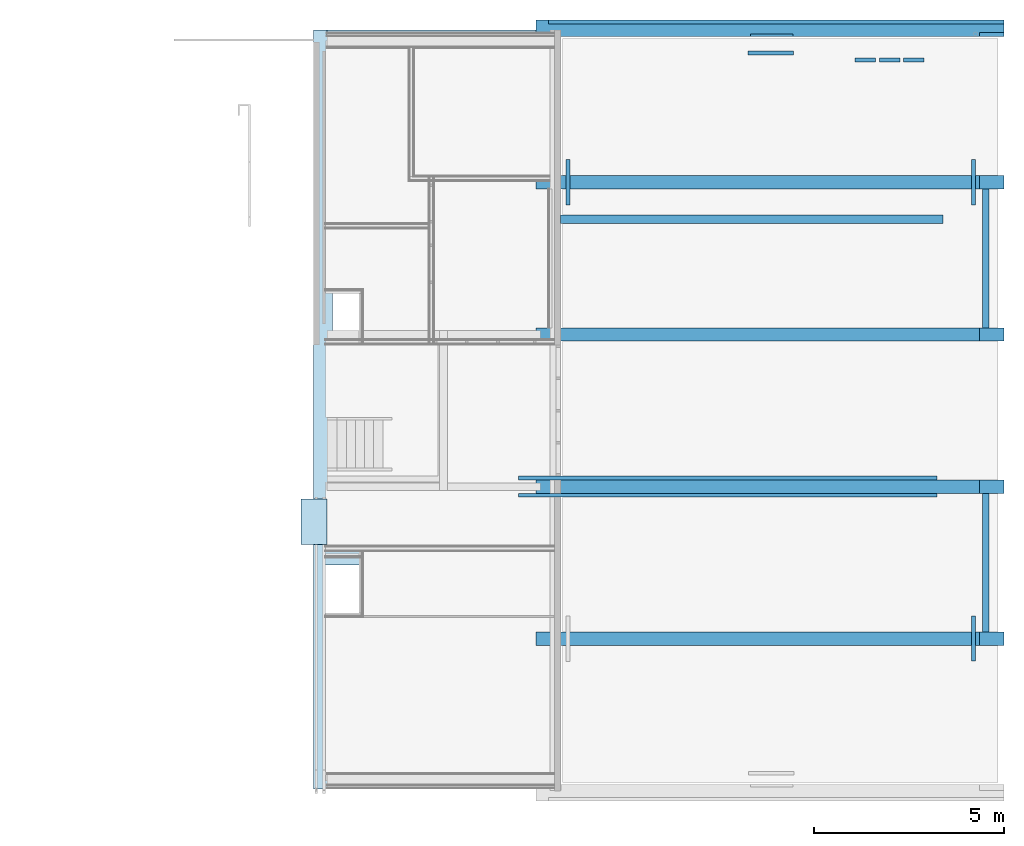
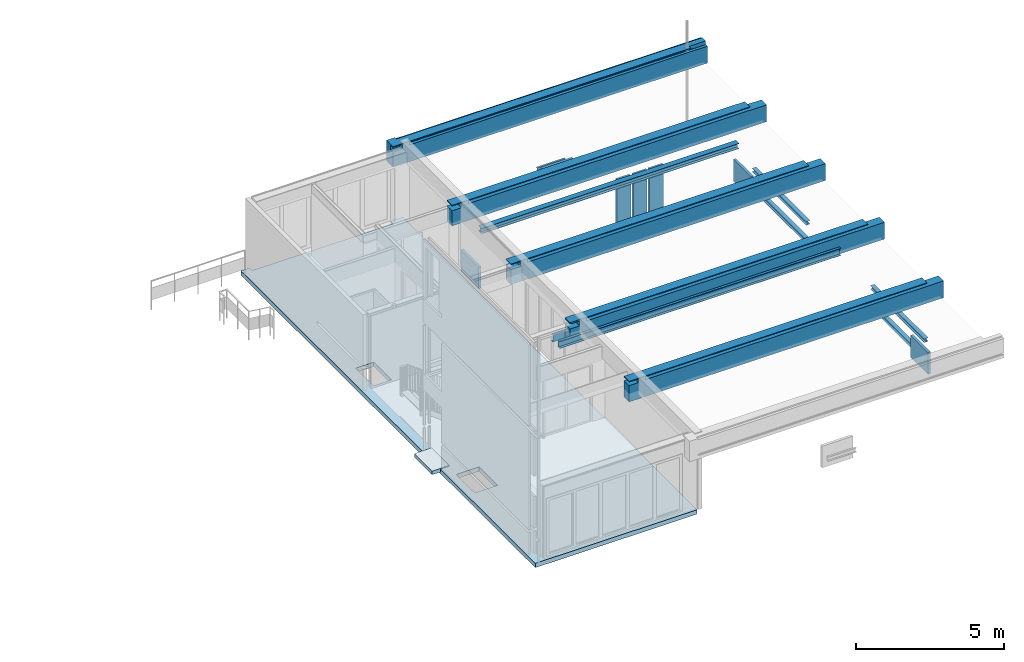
# One storey, part 2 of 13: 18 beams, 2 slabs, 4 openings.
"""IFC2X3 building model written with IfcOpenShell, lengths in millimetres."""

from ifc_helpers import new_model, entity, si_unit, converted_unit, derived_unit, money_unit, direction, frame, origin_with_axes, place, context, subcontext, project, spatial, faceted_brep, material, type_object, element, save


model = new_model("IFC2X3")

# Units and contexts
model_context = context("Model", 3, precision=0.01, world=origin_with_axes(), true_north=direction((0.0, 1.0)))
body_context = subcontext(model_context, "Body", "Model", "MODEL_VIEW")
ifc_project = project(units=[si_unit("LENGTHUNIT", "METRE", prefix="MILLI"), si_unit("AREAUNIT", "SQUARE_METRE"), si_unit("VOLUMEUNIT", "CUBIC_METRE"), converted_unit("PLANEANGLEUNIT", "DEGREE", entity("IfcPlaneAngleMeasure", 0.0174532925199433), si_unit("PLANEANGLEUNIT", "RADIAN"), dimensions=[0, 0, 0, 0, 0, 0, 0]), money_unit("EUR"), converted_unit("TIMEUNIT", "Year", entity("IfcTimeMeasure", 31557600.0), si_unit("TIMEUNIT", "SECOND"), dimensions=[0, 0, 1, 0, 0, 0, 0]), si_unit("MASSUNIT", "GRAM", prefix="KILO"), si_unit("THERMODYNAMICTEMPERATUREUNIT", "DEGREE_CELSIUS"), si_unit("LUMINOUSINTENSITYUNIT", "LUMEN"), si_unit("ENERGYUNIT", "JOULE", prefix="MEGA"), derived_unit("THERMALCONDUCTANCEUNIT", [(si_unit("POWERUNIT", "WATT"), 1), (si_unit("LENGTHUNIT", "METRE"), -1), (si_unit("THERMODYNAMICTEMPERATUREUNIT", "KELVIN"), -1)]), derived_unit("SPECIFICHEATCAPACITYUNIT", [(si_unit("ENERGYUNIT", "JOULE"), 1), (si_unit("MASSUNIT", "GRAM", prefix="KILO"), -1), (si_unit("THERMODYNAMICTEMPERATUREUNIT", "KELVIN"), -1)]), derived_unit("MASSDENSITYUNIT", [(si_unit("MASSUNIT", "GRAM", prefix="KILO"), 1), (si_unit("VOLUMEUNIT", "CUBIC_METRE"), -1)])], contexts=[model_context])

# Site, building, storey
site_placement = place(None, origin_with_axes())
site = spatial("IfcSite", under=ifc_project, at=site_placement, Name="<site naam>", CompositionType="ELEMENT")
building_placement = place(site_placement, origin_with_axes())
building = spatial("IfcBuilding", under=site, at=building_placement, Name="<Naam gebouw>", CompositionType="ELEMENT")
storey_placement = place(building_placement, frame((0.0, 0.0, 3188.0), z_axis=(0.0, 0.0, 1.0), x_axis=(1.0, 0.0, 0.0)))
storey = spatial("IfcBuildingStorey", under=building, at=storey_placement, Name="01 1e tussenverdieping", CompositionType="ELEMENT", Elevation=3188.0)

# Beams
ifc_material_1 = material(Name="beton_gewapend C")
beam_type_1 = type_object("IfcBeamType", Name="beton_gewapend C 350 x 850", PredefinedType="BEAM")
beam_1_placement = place(storey_placement, frame((57675.00000000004, 12000.00000000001, 3157.0), z_axis=(0.0, 0.0, 1.0), x_axis=(0.0, -1.0, 0.0)))
element("IfcBeam", 1, at=beam_1_placement, inside=storey, type_object=beam_type_1, material=ifc_material_1, Name="28_Balk_beton_gewapend", ObjectType="BEAM", context=body_context, shape_type="Brep", body=[
    faceted_brep([(-175.0000000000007, 11649.99999999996, -30.00000000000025), (-175.0000000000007, 649.9999999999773, -30.00000000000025), (-175.0000000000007, 649.9999999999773, -150.0000000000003), (-175.0000000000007, 12299.99999999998, -150.0000000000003), (-175.0000000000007, 12299.99999999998, -850.0000000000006), (-175.0000000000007, 0.0, -850.0000000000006), (-175.0000000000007, 0.0, -230.0000000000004), (-175.0000000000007, 369.9997832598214, -230.0000000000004), (-175.0000000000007, 369.9997832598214, -30.00000000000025), (-175.0000000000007, 0.0, -30.00000000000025), (-175.0000000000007, 0.0, 0.0), (-175.0000000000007, 11649.99999999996, 0.0), (174.9999999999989, 649.9999999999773, -30.00000000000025), (174.9999999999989, 11649.99999999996, -30.00000000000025), (174.9999999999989, 649.9999999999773, -150.0000000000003), (174.9999999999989, 12299.99999999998, -150.0000000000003), (174.9999999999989, 12299.99999999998, -850.0000000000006), (175.0000000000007, 0.0, -850.0000000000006), (175.0000000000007, 0.0, -230.0000000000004), (175.0000000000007, 369.9997832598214, -230.0000000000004), (175.0000000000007, 369.9997832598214, -30.00000000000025), (175.0000000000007, 0.0, -30.00000000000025), (175.0000000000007, 0.0, 0.0), (174.9999999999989, 11649.99999999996, 0.0)], [[[0, 1, 2, 3, 4, 5, 6, 7, 8, 9, 10, 11]], [[12, 1, 0, 13]], [[14, 2, 1, 12]], [[14, 15, 3, 2]], [[4, 3, 15, 16]], [[17, 5, 4, 16]], [[17, 18, 6, 5]], [[19, 7, 6, 18]], [[20, 8, 7, 19]], [[21, 9, 8, 20]], [[10, 9, 21, 22]], [[22, 23, 11, 10]], [[23, 13, 0, 11]], [[14, 12, 13, 23, 22, 21, 20, 19, 18, 17, 16, 15]]]),
])
beam_2_placement = place(storey_placement, frame((57675.00000000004, 16000.00000000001, 3157.0), z_axis=(0.0, 0.0, 1.0), x_axis=(0.0, -1.0, 0.0)))
element("IfcBeam", 2, at=beam_2_placement, inside=storey, type_object=beam_type_1, material=ifc_material_1, Name="28_Balk_beton_gewapend", ObjectType="BEAM", context=body_context, shape_type="Brep", body=[
    faceted_brep([(-175.0000000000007, 11649.99999999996, -30.00000000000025), (-175.0000000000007, 649.9999999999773, -30.00000000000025), (-175.0000000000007, 649.9999999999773, -150.0000000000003), (-175.0000000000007, 12299.99999999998, -150.0000000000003), (-175.0000000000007, 12299.99999999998, -850.0000000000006), (-175.0000000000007, 0.0, -850.0000000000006), (-175.0000000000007, 0.0, -230.0000000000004), (-175.0000000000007, 369.9997832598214, -230.0000000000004), (-175.0000000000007, 369.9997832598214, -30.00000000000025), (-175.0000000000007, 0.0, -30.00000000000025), (-175.0000000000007, 0.0, 0.0), (-175.0000000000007, 11649.99999999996, 0.0), (175.0000000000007, 649.9999999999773, -30.00000000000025), (175.0000000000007, 11649.99999999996, -30.00000000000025), (175.0000000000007, 649.9999999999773, -150.0000000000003), (174.9999999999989, 12299.99999999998, -150.0000000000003), (174.9999999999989, 12299.99999999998, -850.0000000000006), (175.0000000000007, 0.0, -850.0000000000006), (175.0000000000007, 0.0, -230.0000000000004), (175.0000000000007, 369.9997832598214, -230.0000000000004), (175.0000000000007, 369.9997832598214, -30.00000000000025), (175.0000000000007, 0.0, -30.00000000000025), (175.0000000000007, 0.0, 0.0), (174.9999999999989, 11649.99999999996, 0.0)], [[[0, 1, 2, 3, 4, 5, 6, 7, 8, 9, 10, 11]], [[12, 1, 0, 13]], [[14, 2, 1, 12]], [[14, 15, 3, 2]], [[4, 3, 15, 16]], [[17, 5, 4, 16]], [[17, 18, 6, 5]], [[19, 7, 6, 18]], [[20, 8, 7, 19]], [[21, 9, 8, 20]], [[10, 9, 21, 22]], [[22, 23, 11, 10]], [[23, 13, 0, 11]], [[14, 12, 13, 23, 22, 21, 20, 19, 18, 17, 16, 15]]]),
])
beam_3_placement = place(storey_placement, frame((57675.00000000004, 4000.000000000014, 3157.0), z_axis=(0.0, 0.0, 1.0), x_axis=(0.0, -1.0, 0.0)))
element("IfcBeam", 3, at=beam_3_placement, inside=storey, type_object=beam_type_1, material=ifc_material_1, Name="28_Balk_beton_gewapend", ObjectType="BEAM", context=body_context, shape_type="Brep", body=[
    faceted_brep([(-175.0000000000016, 11649.99999999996, -30.00000000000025), (-175.0000000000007, 649.9999999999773, -30.00000000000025), (-175.0000000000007, 649.9999999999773, -150.0000000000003), (-175.0000000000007, 12299.99999999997, -150.0000000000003), (-175.0000000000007, 12299.99999999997, -850.0000000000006), (-174.9999999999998, 0.0, -850.0000000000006), (-175.0000000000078, 0.0, -180.0000000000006), (-175.0000000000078, 369.9997832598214, -180.0000000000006), (-175.0000000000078, 369.9997832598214, -30.00000000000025), (-175.0000000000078, 0.0, -30.00000000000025), (-174.9999999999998, 0.0, 0.0), (-175.0000000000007, 11649.99999999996, 0.0), (175.0000000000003, 649.9999999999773, -30.00000000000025), (174.9999999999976, 11649.99999999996, -30.00000000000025), (175.0000000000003, 649.9999999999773, -150.0000000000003), (174.9999999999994, 12299.99999999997, -150.0000000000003), (174.9999999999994, 12299.99999999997, -850.0000000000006), (174.9999999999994, 0.0, -850.0000000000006), (174.9999999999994, 0.0, -180.0000000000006), (174.9999999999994, 369.9997832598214, -180.0000000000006), (174.9999999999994, 369.9997832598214, -30.00000000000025), (174.9999999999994, 0.0, -30.00000000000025), (174.9999999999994, 0.0, 0.0), (174.9999999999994, 11649.99999999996, 0.0)], [[[0, 1, 2, 3, 4, 5, 6, 7, 8, 9, 10, 11]], [[12, 1, 0, 13]], [[14, 2, 1, 12]], [[14, 15, 3, 2]], [[4, 3, 15, 16]], [[17, 5, 4, 16]], [[17, 18, 6, 5]], [[19, 7, 6, 18]], [[20, 8, 7, 19]], [[21, 9, 8, 20]], [[10, 9, 21, 22]], [[22, 23, 11, 10]], [[23, 13, 0, 11]], [[14, 12, 13, 23, 22, 21, 20, 19, 18, 17, 16, 15]]]),
])
beam_4_placement = place(storey_placement, frame((57675.00000000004, 8000.000000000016, 3157.0), z_axis=(0.0, 0.0, 1.0), x_axis=(0.0, -1.0, 0.0)))
element("IfcBeam", 4, at=beam_4_placement, inside=storey, type_object=beam_type_1, material=ifc_material_1, Name="28_Balk_beton_gewapend", ObjectType="BEAM", context=body_context, shape_type="Brep", body=[
    faceted_brep([(-174.9999999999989, 11649.99999999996, -30.00000000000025), (-174.9999999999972, 649.9999999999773, -30.00000000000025), (-174.9999999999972, 649.9999999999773, -150.0000000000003), (-175.0000000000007, 12299.99999999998, -150.0000000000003), (-175.0000000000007, 12299.99999999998, -850.0000000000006), (-175.0000000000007, 0.0, -850.0000000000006), (-175.0000000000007, 0.0, -260.0000000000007), (-175.0000000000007, 369.9998807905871, -260.0000000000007), (-175.0000000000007, 369.9998807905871, -60.0000000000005), (-175.0000000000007, 0.0, -60.0000000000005), (-175.0000000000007, 0.0, 0.0), (-175.0000000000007, 11649.99999999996, 0.0), (174.9999999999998, 649.9999999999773, -30.00000000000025), (174.999999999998, 11649.99999999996, -30.00000000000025), (174.9999999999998, 649.9999999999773, -150.0000000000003), (174.9999999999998, 12299.99999999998, -150.0000000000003), (174.9999999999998, 12299.99999999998, -850.0000000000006), (175.0000000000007, 0.0, -850.0000000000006), (175.0000000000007, 0.0, -260.0000000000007), (175.0000000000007, 369.9998807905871, -260.0000000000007), (175.0000000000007, 369.9998807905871, -60.0000000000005), (175.0000000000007, 0.0, -60.0000000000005), (175.0000000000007, 0.0, 0.0), (174.9999999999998, 11649.99999999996, 0.0)], [[[0, 1, 2, 3, 4, 5, 6, 7, 8, 9, 10, 11]], [[12, 1, 0, 13]], [[14, 2, 1, 12]], [[14, 15, 3, 2]], [[4, 3, 15, 16]], [[17, 5, 4, 16]], [[17, 18, 6, 5]], [[19, 7, 6, 18]], [[20, 8, 7, 19]], [[21, 9, 8, 20]], [[10, 9, 21, 22]], [[22, 23, 11, 10]], [[23, 13, 0, 11]], [[14, 12, 13, 23, 22, 21, 20, 19, 18, 17, 16, 15]]]),
])
beam_type_2 = type_object("IfcBeamType", Name="beton_gewapend C 440 x 850", PredefinedType="BEAM")
beam_5_placement = place(storey_placement, frame((57675.00000000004, 19824.99999999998, 3157.0), z_axis=(0.0, 0.0, 1.0), x_axis=(0.0, -1.0, 0.0)))
element("IfcBeam", 5, at=beam_5_placement, inside=storey, type_object=beam_type_2, material=ifc_material_1, Name="28_Balk_beton_gewapend", ObjectType="BEAM", context=body_context, shape_type="Brep", body=[
    faceted_brep([(-115.000000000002, 11649.99999999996, 0.0), (-115.000000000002, 11649.99999999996, -30.00000000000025), (-115.000000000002, 649.9999999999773, -30.00000000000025), (-115.000000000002, 649.9999999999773, -150.0000000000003), (-115.000000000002, 12299.99999999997, -150.0000000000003), (-115.000000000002, 12299.99999999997, 0.0), (0.0, 11649.99999999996, 0.0), (0.0, 11649.99999999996, -30.00000000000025), (0.0, 649.9999999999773, -30.00000000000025), (0.0, 649.9999999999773, -150.0000000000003), (0.0, 12299.99999999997, -150.0000000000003), (0.0, 12299.99999999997, -850.0000000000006), (-335.0000000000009, 12299.99999999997, -850.0000000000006), (-335.0000000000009, 12299.99999999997, -659.9999960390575), (-380.0000010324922, 12299.99999999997, -659.9999960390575), (-380.0000010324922, 12299.99999999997, -610.0000280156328), (-410.0000033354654, 12299.99999999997, -610.0000280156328), (-410.0000033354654, 12299.99999999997, -640.0000385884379), (-440.0000056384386, 12299.99999999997, -640.0000385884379), (-440.0000056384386, 12299.99999999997, -50.00000012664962), (-339.9999941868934, 12299.99999999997, -50.00000012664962), (-339.9999941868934, 12299.99999999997, 0.0), (0.0, 0.0, 0.0), (-339.9999941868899, 324.9999999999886, 0.0), (-440.0000000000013, 324.9999999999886, 0.0), (-440.0000000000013, 0.0, 0.0), (0.0, 0.0, -30.00000000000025), (0.0, 369.9997832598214, -30.00000000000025), (0.0, 369.9997832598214, -230.0000000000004), (0.0, 0.0, -230.0000000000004), (0.0, 0.0, -850.0000000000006), (-400.0000000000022, 12299.99999999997, -850.0000000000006), (-400.0000000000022, 325.0000000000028, -850.0000000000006), (-335.0000000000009, 325.0000000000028, -850.0000000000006), (-440.0000000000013, 0.0, -850.0000000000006), (-440.0000000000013, 12299.99999999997, -850.0000000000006), (-335.0000000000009, 325.0000000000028, -659.9999960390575), (-380.0000010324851, 325.0000000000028, -659.9999960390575), (-380.0000010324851, 324.9999999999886, -610.0000280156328), (-410.0000033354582, 324.9999999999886, -610.0000280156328), (-410.0000033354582, 324.9999999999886, -640.0000385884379), (-440.000005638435, 324.9999999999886, -640.0000385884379), (-440.0000056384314, 324.9999999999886, -50.00000012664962), (-440.000005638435, 324.9999999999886, -680.000014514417), (-440.000005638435, 324.9999999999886, -709.9999375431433), (-440.0000056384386, 12299.99999999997, -709.9999375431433), (-339.9999941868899, 324.9999999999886, -50.00000012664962), (-175.0000000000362, 0.0, -230.0000000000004), (-175.0000000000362, 0.0, -30.00000000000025), (-175.0000000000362, 369.9997832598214, -30.00000000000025), (-175.0000000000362, 369.9997832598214, -230.0000000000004), (-400.0000000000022, 325.0000000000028, -709.9999375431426), (-400.0000000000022, 12299.99999999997, -709.9999375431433)], [[[0, 1, 2, 3, 4, 5]], [[6, 7, 1, 0]], [[2, 1, 7, 8]], [[2, 8, 9, 3]], [[9, 10, 4, 3]], [[5, 4, 10, 11, 12, 13, 14, 15, 16, 17, 18, 19, 20, 21]], [[22, 6, 0, 5, 21, 23, 24, 25]], [[9, 8, 7, 6, 22, 26, 27, 28, 29, 30, 11, 10]], [[31, 32, 33, 12, 11, 30, 34, 35]], [[33, 36, 13, 12]], [[13, 36, 37, 14]], [[38, 15, 14, 37]], [[15, 38, 39, 16]], [[16, 39, 40, 17]], [[18, 17, 40, 41]], [[35, 34, 25, 24, 42, 19, 18, 41, 43, 44, 45]], [[19, 42, 46, 20]], [[21, 20, 46, 23]], [[24, 23, 46, 42]], [[47, 48, 26, 22, 25, 34, 30, 29]], [[49, 27, 26, 48]], [[50, 28, 27, 49]], [[47, 29, 28, 50]], [[51, 32, 31, 52]], [[33, 32, 51, 44, 43, 41, 40, 39, 38, 37, 36]], [[35, 45, 52, 31]], [[45, 44, 51, 52]], [[49, 48, 47, 50]]]),
])
ifc_material_2 = material(Name="staal")
beam_type_3 = type_object("IfcBeamType", Name="Profiel UPN algemeen 100 x 300", PredefinedType="BEAM")
beam_6_placement = place(storey_placement, frame((57211.24851208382, 8175.000000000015, 2607.000201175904), z_axis=(0.0, 0.0, 1.0), x_axis=(0.0, -1.0, 0.0)))
element("IfcBeam", 6, at=beam_6_placement, inside=storey, type_object=beam_type_3, material=ifc_material_2, Name="28_Balk_Profiel", ObjectType="BEAM", context=body_context, shape_type="Brep", body=[
    faceted_brep([(-100.0000000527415, 0.0, -16.00000000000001), (-100.0000000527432, 10999.99999999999, -16.00000000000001), (-10.00000000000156, 10999.99999999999, -16.00000000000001), (-9.999999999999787, 0.0, -16.00000000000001), (-100.0000000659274, 0.0, 0.0), (-100.0000000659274, 10999.99999999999, 0.0), (0.0, 10999.99999999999, 0.0), (0.0, 10999.99999999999, -300.0002012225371), (-100.0000000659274, 10999.99999999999, -300.0002012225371), (-100.0000000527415, 10999.99999999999, -284.0002011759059), (-9.999999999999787, 10999.99999999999, -284.0002011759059), (-9.999999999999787, 0.0, -284.0002011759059), (-100.0000000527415, 0.0, -284.0002011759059), (-100.0000000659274, 0.0, -300.0002012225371), (0.0, 0.0, -300.0002012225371), (0.0, 0.0, 0.0)], [[[0, 1, 2, 3]], [[4, 5, 1, 0]], [[2, 1, 5, 6, 7, 8, 9, 10]], [[3, 2, 10, 11]], [[4, 0, 3, 11, 12, 13, 14, 15]], [[15, 6, 5, 4]], [[14, 7, 6, 15]], [[13, 8, 7, 14]], [[12, 9, 8, 13]], [[11, 10, 9, 12]]]),
])
beam_7_placement = place(storey_placement, frame((57211.24851208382, 7825.000000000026, 2607.000201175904), z_axis=(0.0, 0.0, 1.0), x_axis=(0.0, -1.0, 0.0)))
element("IfcBeam", 7, at=beam_7_placement, inside=storey, type_object=beam_type_3, material=ifc_material_2, Name="28_Balk_Profiel", ObjectType="BEAM", context=body_context, shape_type="Brep", body=[
    faceted_brep([(100.0000000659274, 0.0, 0.0), (100.0000000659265, 10999.99999999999, 0.0), (0.0, 10999.99999999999, 0.0), (0.0, 0.0, 0.0), (100.0000000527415, 0.0, -16.00000000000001), (100.0000000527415, 10999.99999999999, -16.00000000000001), (9.999999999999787, 10999.99999999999, -16.00000000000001), (9.999999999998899, 10999.99999999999, -284.0002011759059), (100.0000000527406, 10999.99999999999, -284.0002011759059), (100.0000000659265, 10999.99999999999, -300.0002012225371), (0.0, 10999.99999999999, -300.0002012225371), (0.0, 0.0, -300.0002012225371), (100.0000000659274, 0.0, -300.0002012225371), (100.0000000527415, 0.0, -284.0002011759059), (9.999999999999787, 0.0, -284.0002011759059), (10.00000000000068, 0.0, -16.00000000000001)], [[[0, 1, 2, 3]], [[4, 5, 1, 0]], [[2, 1, 5, 6, 7, 8, 9, 10]], [[3, 2, 10, 11]], [[4, 0, 3, 11, 12, 13, 14, 15]], [[15, 6, 5, 4]], [[14, 7, 6, 15]], [[13, 8, 7, 14]], [[12, 9, 8, 13]], [[11, 10, 9, 12]]]),
])
ifc_material_3 = material(Name="ALG - ALGEMEEN")
beam_type_4 = type_object("IfcBeamType", Name="ALG - ALGEMEEN 100 x 900", PredefinedType="BEAM")
beam_8_placement = place(storey_placement, frame((69225.00005365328, 3415.01755167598, 586.9997884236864), z_axis=(0.0, 0.0, 1.0), x_axis=(1.0, 0.0, 0.0)))
element("IfcBeam", 8, at=beam_8_placement, inside=storey, type_object=beam_type_4, material=ifc_material_3, Name="77_Balk_ALG", ObjectType="BEAM", context=body_context, shape_type="Brep", body=[
    faceted_brep([(0.0, 0.0, 0.0), (0.0, 1184.999999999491, 0.0), (-100.0000020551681, 1184.999999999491, 0.0), (-100.0000020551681, 0.0, 0.0), (0.0, 0.0, -899.9995791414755), (0.0, 1184.999999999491, -899.9995791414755), (-100.0000020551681, 1184.999999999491, -899.9995791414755), (-100.0000020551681, 0.0, -899.9995791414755)], [[[0, 1, 2, 3]], [[4, 5, 1, 0]], [[2, 1, 5, 6]], [[3, 2, 6, 7]], [[4, 0, 3, 7]], [[7, 6, 5, 4]]]),
])
beam_9_placement = place(storey_placement, frame((69225.00005365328, 15399.99999999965, 586.9997884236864), z_axis=(0.0, 0.0, 1.0), x_axis=(1.0, 0.0, 0.0)))
element("IfcBeam", 9, at=beam_9_placement, inside=storey, type_object=beam_type_4, material=ifc_material_3, Name="77_Balk_ALG", ObjectType="BEAM", context=body_context, shape_type="Brep", body=[
    faceted_brep([(0.0, 0.0, 0.0), (0.0, 1200.000000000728, 0.0), (-100.0000020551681, 1200.000000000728, 0.0), (-100.0000020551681, 0.0, 0.0), (0.0, 0.0, -899.9995791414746), (0.0, 1200.000000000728, -899.9995791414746), (-100.0000020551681, 1200.000000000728, -899.9995791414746), (-100.0000020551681, 0.0, -899.9995791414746)], [[[0, 1, 2, 3]], [[4, 5, 1, 0]], [[2, 1, 5, 6]], [[3, 2, 6, 7]], [[4, 0, 3, 7]], [[7, 6, 5, 4]]]),
])
beam_10_placement = place(storey_placement, frame((58467.43408431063, 16599.98244832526, 586.9997884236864), z_axis=(0.0, 0.0, 1.0), x_axis=(-1.0, 0.0, 0.0)))
element("IfcBeam", 10, at=beam_10_placement, inside=storey, type_object=beam_type_4, material=ifc_material_3, Name="77_Balk_ALG", ObjectType="BEAM", context=body_context, shape_type="Brep", body=[
    faceted_brep([(0.0, 0.0, 0.0), (0.0, 1200.000000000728, 0.0), (-100.0000020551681, 1200.000000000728, 0.0), (-100.0000020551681, 0.0, 0.0), (0.0, 0.0, -899.9995791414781), (0.0, 1200.000000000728, -899.9995791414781), (-100.0000020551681, 1200.000000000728, -899.9995791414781), (-100.0000020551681, 0.0, -899.9995791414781)], [[[0, 1, 2, 3]], [[4, 5, 1, 0]], [[2, 1, 5, 6]], [[3, 2, 6, 7]], [[4, 0, 3, 7]], [[7, 6, 5, 4]]]),
])
beam_11_placement = place(storey_placement, frame((63246.21701635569, 19447.41998285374, 586.9997884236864), z_axis=(0.0, 0.0, 1.0), x_axis=(0.0, -1.0, 0.0)))
element("IfcBeam", 11, at=beam_11_placement, inside=storey, type_object=beam_type_4, material=ifc_material_3, Name="77_Balk_ALG", ObjectType="BEAM", context=body_context, shape_type="Brep", body=[
    faceted_brep([(0.0, 0.0, -899.9995791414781), (0.0, 1200.000000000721, -899.9995791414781), (100.0000020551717, 1200.000000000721, -899.9995791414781), (100.0000020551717, 0.0, -899.9995791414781), (0.0, 0.0, 0.0), (0.0, 1200.000000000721, 0.0), (100.0000020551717, 1200.000000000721, 0.0), (100.0000020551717, 0.0, 0.0)], [[[0, 1, 2, 3]], [[4, 5, 1, 0]], [[2, 1, 5, 6]], [[3, 2, 6, 7]], [[4, 0, 3, 7]], [[7, 6, 5, 4]]]),
])
ifc_material_4 = material(Name="staal C")
beam_type_5 = type_object("IfcBeamType", Name="Profiel H algemeen 160 x 152", PredefinedType="BEAM")
for number, where, z_axis, x_axis, name in (
    (12, (69495.00020540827, 15824.99999999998, 510.9994328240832), (0.0, 0.0, 1.0), (-1.0, 0.0, 0.0), "28_Balk_Profiel"),
    (13, (69495.00020540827, 7824.999999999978, 510.9994328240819), (0.0, 0.0, 1.0), (-1.0, 0.0, 0.0), "28_Balk_Profiel"),
    (14, (69495.00020540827, 15824.99999999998, -236.9994328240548), (0.0, 0.0, 1.0), (-1.0, 0.0, 0.0), "28_Balk_Profiel"),
    (15, (69495.00020540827, 7824.999999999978, -236.9994328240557), (0.0, 0.0, 1.0), (-1.0, 0.0, 0.0), "28_Balk_Profiel"),
):
    element("IfcBeam", number, at=place(storey_placement, frame(where, z_axis=z_axis, x_axis=x_axis)), inside=storey, type_object=beam_type_5, material=ifc_material_4, Name=name, ObjectType="BEAM", context=body_context, shape_type="Brep", body=[
        faceted_brep([(-80.00007858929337, 0.0, -76.00042671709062), (-80.00007858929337, 3649.999999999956, -76.00042671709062), (80.00007858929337, 3649.999999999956, -76.00042671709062), (80.00007858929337, 0.0, -76.00042671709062), (-80.00006287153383, 0.0, -66.99970523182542), (-80.00006287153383, 3649.999999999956, -66.99970523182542), (-3.000000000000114, 3649.999999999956, -66.99970523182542), (-3.000000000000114, 3649.999999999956, 66.99970523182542), (-80.00006287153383, 3649.999999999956, 66.99970523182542), (-80.00007858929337, 3649.999999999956, 76.00042671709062), (80.00007858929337, 3649.999999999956, 76.00042671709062), (80.00006287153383, 3649.999999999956, 66.99970523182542), (3.000000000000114, 3649.999999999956, 66.99970523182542), (3.000000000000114, 3649.999999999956, -66.99970523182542), (80.00006287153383, 3649.999999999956, -66.99970523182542), (80.00006287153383, 0.0, -66.99970523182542), (3.000000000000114, 0.0, -66.99970523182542), (3.000000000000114, 0.0, 66.99970523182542), (80.00006287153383, 0.0, 66.99970523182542), (80.00007858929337, 0.0, 76.00042671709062), (-80.00007858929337, 0.0, 76.00042671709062), (-80.00006287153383, 0.0, 66.99970523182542), (-3.000000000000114, 0.0, 66.99970523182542), (-3.000000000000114, 0.0, -66.99970523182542)], [[[0, 1, 2, 3]], [[4, 5, 1, 0]], [[2, 1, 5, 6, 7, 8, 9, 10, 11, 12, 13, 14]], [[3, 2, 14, 15]], [[4, 0, 3, 15, 16, 17, 18, 19, 20, 21, 22, 23]], [[23, 6, 5, 4]], [[22, 7, 6, 23]], [[21, 8, 7, 22]], [[20, 9, 8, 21]], [[19, 10, 9, 20]], [[18, 11, 10, 19]], [[17, 12, 11, 18]], [[16, 13, 12, 17]], [[15, 14, 13, 16]]]),
    ])
beam_type_6 = type_object("IfcBeamType", Name="ALG - ALGEMEEN 100 x 2438", PredefinedType="BEAM")
beam_12_placement = place(storey_placement, frame((66056.21701635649, 19214.99223072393, -750.4999999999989), z_axis=(0.0, 0.0, 1.0), x_axis=(0.0, -1.0, 0.0)))
element("IfcBeam", 16, at=beam_12_placement, inside=storey, type_object=beam_type_6, material=ifc_material_3, Name="77_Balk_ALG", ObjectType="BEAM", context=body_context, shape_type="Brep", body=[
    faceted_brep([(50.00000102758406, 0.0, 0.0), (50.00000102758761, 539.9999736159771, 0.0), (-50.00000102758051, 539.9999736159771, 0.0), (-50.00000102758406, 0.0, 0.0), (50.00000102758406, 0.0, -2434.500000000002), (50.00000102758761, 539.9999736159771, -2434.500000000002), (-50.00000102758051, 539.9999736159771, -2434.500000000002), (-50.00000102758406, 0.0, -2434.500000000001)], [[[0, 1, 2, 3]], [[4, 5, 1, 0]], [[5, 6, 2, 1]], [[3, 2, 6, 7]], [[0, 3, 7, 4]], [[7, 6, 5, 4]]]),
    faceted_brep([(50.00000102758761, 639.9999999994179, 0.0), (50.00000102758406, 1179.999973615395, 0.0), (-50.00000102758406, 1179.999973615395, 0.0), (-50.00000102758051, 639.9999999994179, 0.0), (50.00000102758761, 639.9999999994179, -2434.500000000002), (50.00000102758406, 1179.999973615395, -2434.500000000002), (-50.00000102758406, 1179.999973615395, -2434.500000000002), (-50.00000102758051, 639.9999999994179, -2434.500000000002)], [[[0, 1, 2, 3]], [[4, 5, 1, 0]], [[5, 6, 2, 1]], [[3, 2, 6, 7]], [[4, 0, 3, 7]], [[7, 6, 5, 4]]]),
    faceted_brep([(-50.00000102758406, 1819.999973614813, -2434.500000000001), (-50.00000102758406, 1279.999999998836, -2434.500000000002), (-50.00000102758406, 1279.999999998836, 0.0), (-50.00000102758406, 1819.999973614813, 0.0), (50.00000102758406, 1819.999973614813, -2434.500000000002), (50.00000102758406, 1279.999999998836, -2434.500000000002), (50.00000102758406, 1279.999999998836, 0.0), (50.00000102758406, 1819.999973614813, 0.0)], [[[0, 1, 2, 3]], [[4, 5, 1, 0]], [[5, 6, 2, 1]], [[3, 2, 6, 7]], [[3, 7, 4, 0]], [[7, 6, 5, 4]]]),
])
beam_type_7 = type_object("IfcBeamType", Name="Profiel UPN algemeen 70 x 180", PredefinedType="BEAM")
beam_13_placement = place(storey_placement, frame((63313.25000000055, 19829.99963413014, 299.0000070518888), z_axis=(0.0, 0.0, 1.0), x_axis=(0.0, -1.0, 0.0)))
element("IfcBeam", 17, at=beam_13_placement, inside=storey, type_object=beam_type_7, material=ifc_material_2, Name="28_Balk_Profiel", ObjectType="BEAM", context=body_context, shape_type="Brep", body=[
    faceted_brep([(-7.999999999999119, 0.0, -11.00000000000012), (-70.00032444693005, 0.0, -11.00000000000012), (-70.00032444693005, 1113.499999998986, -11.00000000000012), (-7.999999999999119, 1113.499999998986, -11.00000000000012), (0.0, 0.0, 0.0), (-70.00040555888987, 0.0, 0.0), (-7.999999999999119, 0.0, -169.0000143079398), (-70.00032444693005, 0.0, -169.0000143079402), (-70.00040555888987, 0.0, -180.0000145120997), (0.0, 0.0, -180.0000145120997), (-70.00040555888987, 1113.499999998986, 0.0), (-7.999999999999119, 1113.499999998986, -169.0000143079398), (0.0, 1113.499999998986, 0.0), (0.0, 1113.499999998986, -180.0000145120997), (-70.00040555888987, 1113.499999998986, -180.0000145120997), (-70.00032444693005, 1113.499999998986, -169.0000143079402)], [[[0, 1, 2, 3]], [[4, 5, 1, 0, 6, 7, 8, 9]], [[1, 5, 10, 2]], [[11, 3, 2, 10, 12, 13, 14, 15]], [[6, 0, 3, 11]], [[5, 4, 12, 10]], [[7, 6, 11, 15]], [[8, 7, 15, 14]], [[9, 8, 14, 13]], [[4, 9, 13, 12]]]),
])
beam_type_8 = type_object("IfcBeamType", Name="HEB220 220 x 220", PredefinedType="BEAM")
beam_14_placement = place(storey_placement, frame((58317.78284470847, 15024.75000000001, 2411.499999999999), z_axis=(0.0, 0.0, 1.0), x_axis=(0.0, -1.0, 0.0)))
element("IfcBeam", 18, at=beam_14_placement, inside=storey, type_object=beam_type_8, material=ifc_material_4, Name="28_Balk_HEB220", ObjectType="BEAM", context=body_context, shape_type="Brep", body=[
    faceted_brep([(-109.9999999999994, 0.0, 115.4999999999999), (-110.0000000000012, 10057.26566737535, 115.4999999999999), (-110.0000000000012, 10057.26566737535, 99.49999999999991), (-109.9999999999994, 0.0, 99.49999999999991), (109.9999999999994, 0.0, 115.4999999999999), (109.9999999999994, 10057.26566737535, 115.4999999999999), (109.9999999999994, 10057.26566737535, 99.49999999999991), (4.749999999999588, 10057.26566737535, 99.49999999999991), (4.749999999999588, 10057.26566737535, -88.4999999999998), (109.9999999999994, 10057.26566737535, -88.4999999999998), (109.9999999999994, 10057.26566737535, -104.4999999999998), (-110.0000000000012, 10057.26566737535, -104.4999999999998), (-110.0000000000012, 10057.26566737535, -88.4999999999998), (-4.750000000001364, 10057.26566737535, -88.4999999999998), (-4.750000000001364, 10057.26566737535, 99.49999999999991), (-4.749999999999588, 0.0, 99.49999999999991), (-4.749999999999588, 0.0, -88.4999999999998), (-109.9999999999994, 0.0, -88.4999999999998), (-109.9999999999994, 0.0, -104.4999999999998), (109.9999999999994, 0.0, -104.4999999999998), (109.9999999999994, 0.0, -88.4999999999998), (4.749999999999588, 0.0, -88.4999999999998), (4.749999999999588, 0.0, 99.49999999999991), (109.9999999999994, 0.0, 99.49999999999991)], [[[0, 1, 2, 3]], [[4, 5, 1, 0]], [[2, 1, 5, 6, 7, 8, 9, 10, 11, 12, 13, 14]], [[3, 2, 14, 15]], [[4, 0, 3, 15, 16, 17, 18, 19, 20, 21, 22, 23]], [[23, 6, 5, 4]], [[22, 7, 6, 23]], [[21, 8, 7, 22]], [[20, 9, 8, 21]], [[19, 10, 9, 20]], [[18, 11, 10, 19]], [[17, 12, 11, 18]], [[16, 13, 12, 17]], [[15, 14, 13, 16]]]),
])

# Slab
ifc_material_5 = material(Name="beton_gewapend_vloer C")
slab_type_1 = type_object("IfcSlabType", Name="beton_gewapend_vloer C  150", PredefinedType="NOTDEFINED")
slab_1_placement = place(storey_placement, frame((51501.00000000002, 6475.000000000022, 0.0), z_axis=(0.0, 0.0, 1.0), x_axis=(1.0, 0.0, 0.0)))
element("IfcSlab", 19, at=slab_1_placement, inside=storey, type_object=slab_type_1, material=ifc_material_5, Name="23_Vloer_beton_gewapend_vloer", PredefinedType="NOTDEFINED", context=body_context, shape_type="Brep", body=[
    faceted_brep([(0.0, 0.0, 0.0), (0.0, 0.0, -149.9999999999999), (673.4000000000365, 0.0, -149.9999999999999), (673.4000000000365, 0.0, 0.0), (0.0, 1199.999999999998, 0.0), (0.0, 1199.999999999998, -149.9999999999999), (673.4000000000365, 1199.999999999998, -149.9999999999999), (673.4000000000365, 1199.999999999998, 0.0)], [[[0, 1, 2, 3]], [[4, 5, 1, 0]], [[2, 1, 5, 6]], [[3, 2, 6, 7]], [[4, 0, 3, 7]], [[7, 6, 5, 4]]]),
])

# Slab, openings
slab_type_2 = type_object("IfcSlabType", Name="beton_gewapend_vloer C  180", PredefinedType="NOTDEFINED")
slab_2_placement = place(storey_placement, frame((51825.00000000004, 50.04536538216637, -29.9999999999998), z_axis=(0.0, 0.0, 1.0), x_axis=(1.0, 0.0, 0.0)))
slab_2 = element("IfcSlab", 20, at=slab_2_placement, inside=storey, type_object=slab_type_2, material=ifc_material_5, Name="23_Vloer_beton_gewapend_vloer", PredefinedType="NOTDEFINED", context=body_context, shape_type="Brep", body=[
    faceted_brep([(0.0, 0.0, 0.0), (0.0, 0.0, -180.0000000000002), (6332.782844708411, 0.0, -180.0000000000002), (6332.782844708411, 0.0, 0.0), (0.0, 19949.95463461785, 0.0), (0.0, 19949.95463461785, -180.0000000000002), (6332.782844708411, 19949.95463461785, -180.0000000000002), (6332.782844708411, 19949.95463461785, 0.0)], [[[0, 1, 2, 3]], [[4, 5, 1, 0]], [[2, 1, 5, 6]], [[3, 2, 6, 7]], [[4, 0, 3, 7]], [[7, 6, 5, 4]]]),
])
opening_1_placement = place(slab_2_placement, frame((-51825.00000000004, -50.04536538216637, -3158.0), z_axis=(0.0, 0.0, 1.0), x_axis=(1.0, 0.0, 0.0)))
element("IfcOpeningElement", 21, at=opening_1_placement, cuts=slab_2, Name="23_Opening_", context=body_context, shape_type="Brep", body=[
    faceted_brep([(52325.00000000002, 11875.00000000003, 3338.000000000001), (52325.00000000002, 13075.00000000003, 3338.000000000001), (52325.00000000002, 13075.00000000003, 2798.0), (52325.00000000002, 11875.00000000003, 2798.0), (53025.00000000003, 11875.00000000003, 3338.000000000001), (53025.00000000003, 13075.00000000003, 3338.000000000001), (53025.00000000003, 13075.00000000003, 2798.0), (53025.00000000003, 11875.00000000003, 2798.0)], [[[0, 1, 2, 3]], [[0, 4, 5, 1]], [[1, 5, 6, 2]], [[3, 2, 6, 7]], [[4, 0, 3, 7]], [[5, 4, 7, 6]]]),
])
opening_2_placement = place(slab_2_placement, frame((-51825.00000000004, -50.04536538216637, -3158.0), z_axis=(0.0, 0.0, 1.0), x_axis=(1.0, 0.0, 0.0)))
element("IfcOpeningElement", 22, at=opening_2_placement, cuts=slab_2, Name="23_Opening_", context=body_context, shape_type="Brep", body=[
    faceted_brep([(52175.00007309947, 20000.00000000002, 3158.0), (52175.00007309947, 20290.62140104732, 3158.0), (52175.00007309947, 20290.62140104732, 3008.0), (52175.00007309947, 20000.00000000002, 3008.0), (57675.00000000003, 20000.00000000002, 3158.0), (57675.00000000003, 20290.62140104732, 3158.0), (57675.00000000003, 20290.62140104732, 3008.0), (57675.00000000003, 20000.00000000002, 3008.0)], [[[0, 1, 2, 3]], [[0, 4, 5, 1]], [[1, 5, 6, 2]], [[3, 2, 6, 7]], [[4, 0, 3, 7]], [[5, 4, 7, 6]]]),
])
opening_3_placement = place(slab_2_placement, frame((-51825.00000000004, -50.04536538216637, -3158.0), z_axis=(0.0, 0.0, 1.0), x_axis=(1.0, 0.0, 0.0)))
element("IfcOpeningElement", 23, at=opening_3_placement, cuts=slab_2, Name="23_Opening_", context=body_context, shape_type="Brep", body=[
    faceted_brep([(52135.00000000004, 4685.000000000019, 3158.0), (52135.00000000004, 5935.000000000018, 3158.0), (52135.00000000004, 5935.000000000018, 2158.0), (52135.00000000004, 4685.000000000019, 2158.0), (53025.00000000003, 4685.000000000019, 3158.0), (53025.00000000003, 5935.000000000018, 3158.0), (53025.00000000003, 5935.000000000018, 2158.0), (53025.00000000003, 4685.000000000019, 2158.0)], [[[0, 1, 2, 3]], [[0, 4, 5, 1]], [[1, 5, 6, 2]], [[3, 2, 6, 7]], [[4, 0, 3, 7]], [[5, 4, 7, 6]]]),
])
opening_4_placement = place(slab_2_placement, frame((-51825.00000000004, -50.04536538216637, -3158.0), z_axis=(0.0, 0.0, 1.0), x_axis=(1.0, 0.0, 0.0)))
element("IfcOpeningElement", 24, at=opening_4_placement, cuts=slab_2, Name="23_Opening_", context=body_context, shape_type="Brep", body=[
    faceted_brep([(52175.00000000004, 19825.00000000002, 3158.0), (52175.00000000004, 19999.99992132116, 3158.0), (52175.00000000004, 19999.99992132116, 3008.0), (52175.00000000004, 19825.00000000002, 3008.0), (57674.9999269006, 19825.00000000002, 3158.0), (57674.9999269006, 19999.99992132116, 3158.0), (57674.9999269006, 19999.99992132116, 3008.0), (57674.9999269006, 19825.00000000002, 3008.0)], [[[0, 1, 2, 3]], [[0, 4, 5, 1]], [[1, 5, 6, 2]], [[3, 2, 6, 7]], [[4, 0, 3, 7]], [[5, 4, 7, 6]]]),
])

save(model, "model.ifc")
